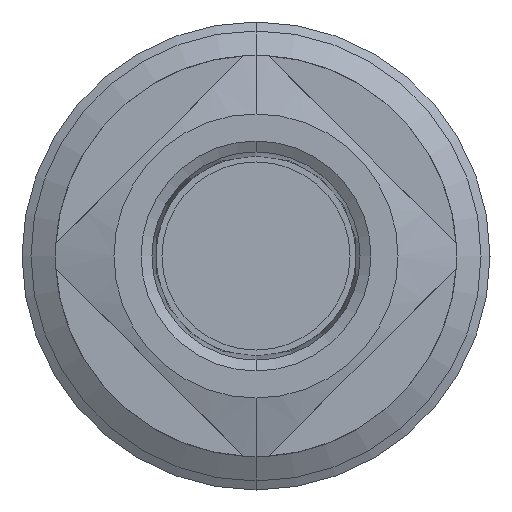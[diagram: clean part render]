
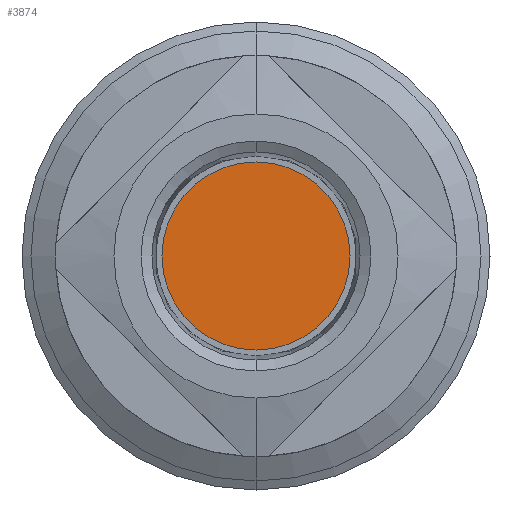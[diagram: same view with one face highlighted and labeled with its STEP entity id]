
A CAD part, front view. The second image highlights one B-rep face of the part: STEP entity #3874.
In plain terms, the highlighted planar face has unit normal (0, -1, 0).
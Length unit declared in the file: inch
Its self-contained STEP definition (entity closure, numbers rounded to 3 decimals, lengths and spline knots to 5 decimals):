
#158 = DIRECTION ( 'NONE',  ( 0., 0., -1. ) ) ;
#390 = CIRCLE ( 'NONE', #3282, 0.875 ) ;
#737 = VERTEX_POINT ( 'NONE', #1103 ) ;
#1103 = CARTESIAN_POINT ( 'NONE',  ( 0., -0.093, -0.875 ) ) ;
#1105 = CARTESIAN_POINT ( 'NONE',  ( 0., -0.093, 0.875 ) ) ;
#1386 = PLANE ( 'NONE',  #3105 ) ;
#1728 = CIRCLE ( 'NONE', #4872, 0.875 ) ;
#2450 = VERTEX_POINT ( 'NONE', #1105 ) ;
#2815 = CARTESIAN_POINT ( 'NONE',  ( 0., -0.093, 0. ) ) ;
#3010 = CARTESIAN_POINT ( 'NONE',  ( 0., -0.093, 0. ) ) ;
#3097 = EDGE_CURVE ( 'NONE', #737, #2450, #1728, .T. ) ;
#3105 = AXIS2_PLACEMENT_3D ( 'NONE', #4462, #4899, #3830 ) ;
#3282 = AXIS2_PLACEMENT_3D ( 'NONE', #3010, #3774, #4126 ) ;
#3330 = ORIENTED_EDGE ( 'NONE', *, *, #4372, .F. ) ;
#3442 = EDGE_LOOP ( 'NONE', ( #4500, #3330 ) ) ;
#3601 = DIRECTION ( 'NONE',  ( 0., 1., 0. ) ) ;
#3774 = DIRECTION ( 'NONE',  ( 0., 1., 0. ) ) ;
#3830 = DIRECTION ( 'NONE',  ( 0., 0., 1. ) ) ;
#3874 = ADVANCED_FACE ( 'NONE', ( #4852 ), #1386, .T. ) ;
#4126 = DIRECTION ( 'NONE',  ( 0., 0., -1. ) ) ;
#4372 = EDGE_CURVE ( 'NONE', #2450, #737, #390, .T. ) ;
#4462 = CARTESIAN_POINT ( 'NONE',  ( 0., -0.093, 0. ) ) ;
#4500 = ORIENTED_EDGE ( 'NONE', *, *, #3097, .F. ) ;
#4852 = FACE_OUTER_BOUND ( 'NONE', #3442, .T. ) ;
#4872 = AXIS2_PLACEMENT_3D ( 'NONE', #2815, #3601, #158 ) ;
#4899 = DIRECTION ( 'NONE',  ( 0., -1., 0. ) ) ;
